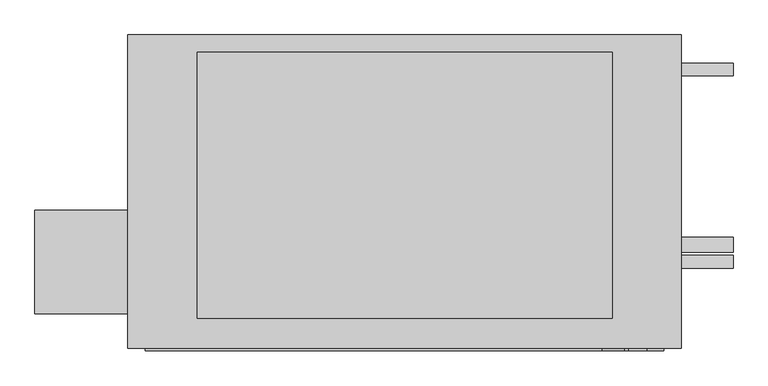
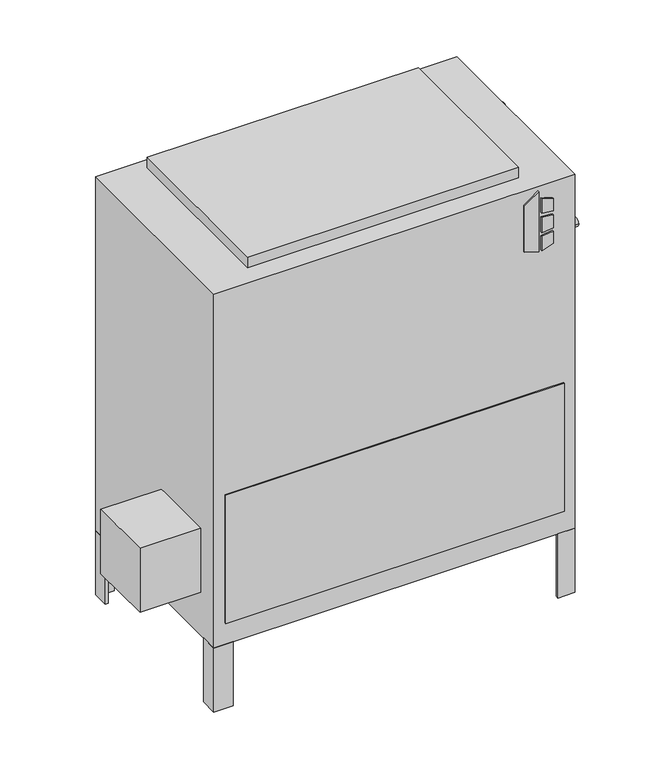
"""IFC4 building model written with IfcOpenShell, lengths in millimetres: proxy geometry, Concealed_High_Capacity_Vertical_Fan_Coil_Unit_-_VEY_-_IEC_-_2-Pipe_Cool-EHeat_RH_2022 : Size 10 - 277v/60Hz/1Ph - 6 Row 7.0kW."""

from ifc_helpers import new_model, si_unit, point, frame, frame_2d, origin, origin_with_axes, place, context, project, spatial, polyline, circle_curve, trimmed, segment, composite_curve, outline, extrude, source, transform, mapped, element, save


def mechanical_equipment_4a43bcff(model_context):
    return source(origin(), model_context, "Body", "SweptSolid", [
        extrude(outline(polyline([(698.9230703, 442.9868862), (688.975, 475.1602728), (831.1459244, 475.1602728), (808.1239183, 442.9868862), (698.9230703, 442.9868862)])), frame((0.0, -471.4875, 0.0), z_axis=(0.0, 1.0, 0.0), x_axis=(0.0, 0.0, 1.0)), (0.0, 0.0, 1.0), 3.175),
        extrude(outline(polyline([(777.9223557, 481.9186058), (774.7199632, 508.0), (803.9488042, 508.0), (812.0132193, 481.9186058), (777.9223557, 481.9186058)])), frame((0.0, -471.4875, 0.0), z_axis=(0.0, 1.0, 0.0), x_axis=(0.0, 0.0, 1.0)), (0.0, 0.0, 1.0), 3.175),
        extrude(outline(polyline([(726.0588288, 508.0), (722.3933279, 481.9186058), (688.975, 481.9186058), (697.6092372, 508.0), (726.0588288, 508.0)])), frame((0.0, -471.4875, 0.0), z_axis=(0.0, 1.0, 0.0), x_axis=(0.0, 0.0, 1.0)), (0.0, 0.0, 1.0), 3.175),
        extrude(outline(polyline([(765.3739903, 508.0), (767.6558166, 481.9186058), (731.7182681, 481.9186058), (734.4595331, 508.0), (765.3739903, 508.0)])), frame((0.0, -471.4875, 0.0), z_axis=(0.0, 1.0, 0.0), x_axis=(0.0, 0.0, 1.0)), (0.0, 0.0, 1.0), 3.175),
        extrude(outline(polyline([(-390.525, -417.5125), (-390.525, -265.1125), (-254.0, -265.1125), (-254.0, -417.5125), (-390.525, -417.5125)])), frame((0.0, 0.0, 101.6), z_axis=(0.0, 0.0, 1.0), x_axis=(1.0, 0.0, 0.0)), (0.0, 0.0, 1.0), 152.4),
        extrude(outline(polyline([(558.8, -46.0375), (552.45, -46.0375), (552.45, -14.2875), (520.7, -14.2875), (520.7, -7.9375), (558.8, -7.9375), (558.8, -46.0375)])), frame((0.0, 0.0, -152.4), z_axis=(0.0, 0.0, 1.0), x_axis=(1.0, 0.0, 0.0)), (0.0, 0.0, 1.0), 152.4),
        extrude(outline(polyline([(-215.9, -7.9375), (-215.9, -14.2875), (-247.65, -14.2875), (-247.65, -46.0375), (-254.0, -46.0375), (-254.0, -7.9375), (-215.9, -7.9375)])), frame((0.0, 0.0, -152.4), z_axis=(0.0, 0.0, 1.0), x_axis=(1.0, 0.0, 0.0)), (0.0, 0.0, 1.0), 152.4),
        extrude(outline(polyline([(520.7, -468.3125), (520.7, -461.9625), (552.45, -461.9625), (552.45, -430.2125), (558.8, -430.2125), (558.8, -468.3125), (520.7, -468.3125)])), frame((0.0, 0.0, -152.4), z_axis=(0.0, 0.0, 1.0), x_axis=(1.0, 0.0, 0.0)), (0.0, 0.0, 1.0), 152.4),
        extrude(outline(polyline([(-254.0, -428.1199163), (-247.65, -428.1199163), (-247.65, -461.9625), (-210.5318533, -461.9625), (-210.5318533, -468.3125), (-254.0, -468.3125), (-254.0, -428.1199163)])), frame((0.0, 0.0, -152.4), z_axis=(0.0, 0.0, 1.0), x_axis=(1.0, 0.0, 0.0)), (0.0, 0.0, 1.0), 152.4),
        extrude(outline(polyline([(457.2, -33.3375), (457.2, -423.8625), (-152.4, -423.8625), (-152.4, -33.3375), (457.2, -33.3375)])), frame((0.0, 0.0, 841.375), z_axis=(0.0, 0.0, 1.0), x_axis=(1.0, 0.0, 0.0)), (0.0, 0.0, 1.0), 25.4),
        extrude(outline(polyline([(533.4, -471.4875), (-228.6, -471.4875), (-228.6, -468.3125), (533.4, -468.3125), (533.4, -471.4875)])), frame((0.0, 0.0, 50.8), z_axis=(0.0, 0.0, 1.0), x_axis=(1.0, 0.0, 0.0)), (0.0, 0.0, 1.0), 304.8),
        extrude(outline(composite_curve([segment(trimmed(circle_curve(frame_2d((-58.7375, 727.075)), 9.525), [point((-49.2125, 727.075))], [point((-68.2625, 727.075))], False, "CARTESIAN"), True, "CONTINUOUS"), segment(trimmed(circle_curve(frame_2d((-58.7375, 727.075)), 9.525), [point((-68.2625, 727.075))], [point((-49.2125, 727.075))], False, "CARTESIAN"), True, "CONTINUOUS")], self_intersect=False)), frame((558.8, 0.0, 0.0), z_axis=(1.0, 0.0, 0.0), x_axis=(0.0, 1.0, 0.0)), (0.0, 0.0, 1.0), 76.2),
        extrude(outline(composite_curve([segment(trimmed(circle_curve(frame_2d((-341.3125, 625.475)), 9.525), [point((-331.7875, 625.475))], [point((-350.8375, 625.475))], False, "CARTESIAN"), True, "CONTINUOUS"), segment(trimmed(circle_curve(frame_2d((-341.3125, 625.475)), 9.525), [point((-350.8375, 625.475))], [point((-331.7875, 625.475))], False, "CARTESIAN"), True, "CONTINUOUS")], self_intersect=False)), frame((558.8, 0.0, 0.0), z_axis=(1.0, 0.0, 0.0), x_axis=(0.0, 1.0, 0.0)), (0.0, 0.0, 1.0), 76.2),
        extrude(outline(composite_curve([segment(trimmed(circle_curve(frame_2d((-315.9125, 536.575)), 11.1125), [point((-304.8, 536.575))], [point((-327.025, 536.575))], False, "CARTESIAN"), True, "CONTINUOUS"), segment(trimmed(circle_curve(frame_2d((-315.9125, 536.575)), 11.1125), [point((-327.025, 536.575))], [point((-304.8, 536.575))], False, "CARTESIAN"), True, "CONTINUOUS")], self_intersect=False)), frame((558.8, 0.0, 0.0), z_axis=(1.0, 0.0, 0.0), x_axis=(0.0, 1.0, 0.0)), (0.0, 0.0, 1.0), 76.2),
        extrude(outline(polyline([(558.8, -7.9375), (558.8, -468.3125), (-254.0, -468.3125), (-254.0, -7.9375), (558.8, -7.9375)])), origin_with_axes(), (0.0, 0.0, 1.0), 841.375),
    ])


if __name__ == "__main__":
    model = new_model("IFC4")
    model_context = context("Model", 3, world=origin())
    ifc_project = project(units=[si_unit("LENGTHUNIT", "METRE", prefix="MILLI")], contexts=[model_context])
    site = spatial("IfcSite", under=ifc_project)
    building = spatial("IfcBuilding", under=site)
    placement = place(None, origin())
    mechanical_equipment_shape = mechanical_equipment_4a43bcff(model_context)
    element("IfcBuildingElementProxy", 1, Name="Concealed_High_Capacity_Vertical_Fan_Coil_Unit_-_VEY_-_IEC_-_2-Pipe_Cool-EHeat_RH_2022 : Size 10 - 277v/60Hz/1Ph - 6 Row 7.0kW", ObjectType="Concealed_High_Capacity_Vertical_Fan_Coil_Unit_-_VEY_-_IEC_-_2-Pipe_Cool-EHeat_RH_2022 : Size 10 - 277v/60Hz/1Ph - 6 Row 7.0kW", at=placement, inside=building, context=model_context, shape_type="MappedRepresentation", body=[
        mapped(mechanical_equipment_shape, transform((0.0, 0.0, 0.0), x_axis=(1.0, 0.0, 0.0), y_axis=(0.0, 1.0, 0.0), z_axis=(0.0, 0.0, 1.0))),
    ])
    save(model, "model.ifc")
